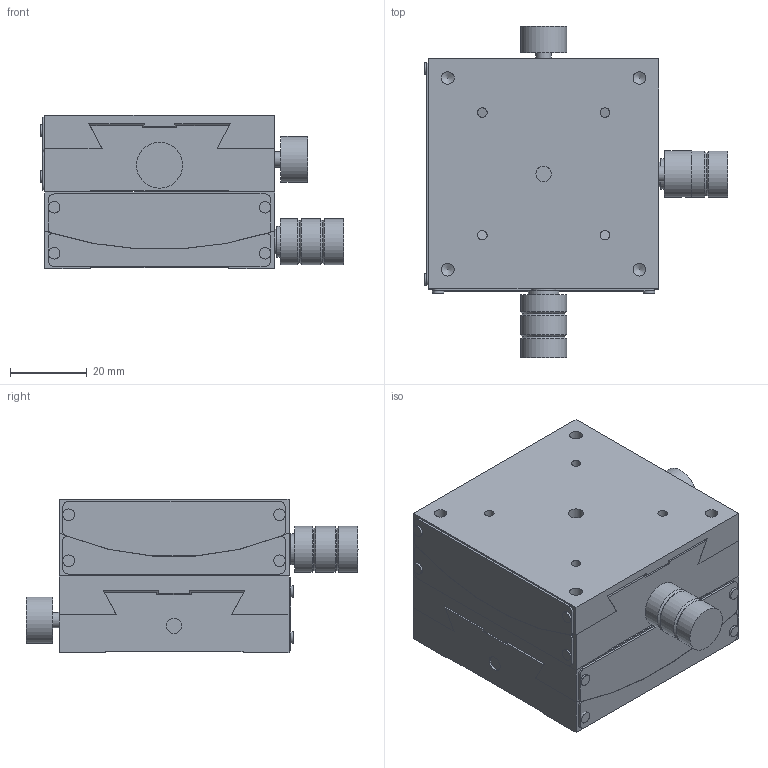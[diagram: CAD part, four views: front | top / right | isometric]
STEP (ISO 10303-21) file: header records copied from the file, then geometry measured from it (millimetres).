
FILE_DESCRIPTION( ( 'STEP AP203' ), '1' );
FILE_NAME( 'C:/Documents and Settings/09371/デスクトップ/CAD-ORG-STEP-DATA-3D簡素化依頼/3D_DATA_STEP/B55-60N.step', '2007-02-07T02:38:39', ( ' ' ), ( ' ' ), 'XStep 1.0', ' ', ' ' );
FILE_SCHEMA( ( 'CONFIG_CONTROL_DESIGN' ) );
Length unit declared in the file: millimetre
Products named in the file (6): 1; 2; 3; 4; 5; 6
Bounding box: 79.1 x 86.62 x 40 mm (x, y, z)
Volume: 142719.8 mm3; surface area: 52559.4 mm2
Topology: 8 solids, 8 shells, 246 faces, 637 edges, 423 vertices
Faces by surface type: cylinder 114, plane 104, cone 28
Full cylindrical faces by diameter (mm): 2.5 x16, 3 x8, 3.3 x16, 4 x10, 4.5 x8, 6.5 x2, 8 x10, 12 x8
Entity records: 7694 total; most frequent: CARTESIAN_POINT 2004, DIRECTION 1138, ORIENTED_EDGE 968, EDGE_CURVE 484, AXIS2_PLACEMENT_3D 462, EDGE_LOOP 396, VERTEX_POINT 376, FACE_OUTER_BOUND 322
